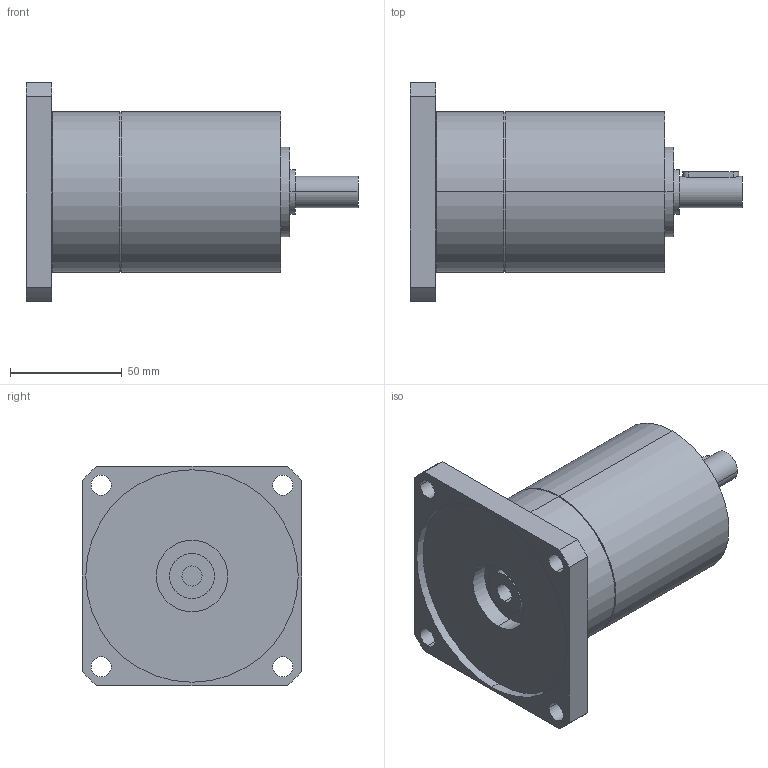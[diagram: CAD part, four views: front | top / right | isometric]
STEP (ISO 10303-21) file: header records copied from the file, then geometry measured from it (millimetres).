
FILE_DESCRIPTION(('CoCreate Modeling STEP Export'),'2;1');
FILE_NAME('GPT75_ig-9-12-16-20-25-28-35-40-50-70-100_14_B14T_9_P08.stp','2014-08-27T13:27:09',(''),(''),'CoCreate Modeling STEP processor for AP214 (Solid Model)','CoCreate Modeling 16.00C 25-Feb-2009 (C) Parametric Technology GmbH','');
FILE_SCHEMA(('AUTOMOTIVE_DESIGN { 1 0 10303 214 1 1 1 1 }'));
Length unit declared in the file: millimetre
Products named in the file (2): GPT75_ig-9-12-16-20-25-28-35-40-50-70-100_14_B14T_9_P08
Assembly tree (1 placements, depth 2):
  GPT75_ig-9-12-16-20-25-28-35-40-50-70-100_14_B14T_9_P08
    GPT75_ig-9-12-16-20-25-28-35-40-50-70-100_14_B14T_9_P08
Bounding box: 148.5 x 98 x 98 mm (x, y, z)
Volume: 497960.6 mm3; surface area: 53599.8 mm2
Topology: 1 solids, 1 shells, 69 faces, 161 edges, 108 vertices
Faces by surface type: cylinder 42, plane 23, cone 4
Entity records: 2136 total; most frequent: CARTESIAN_POINT 659, ORIENTED_EDGE 322, DIRECTION 262, EDGE_CURVE 161, VERTEX_POINT 108, AXIS2_PLACEMENT_3D 99, EDGE_LOOP 91, FACE_OUTER_BOUND 69
